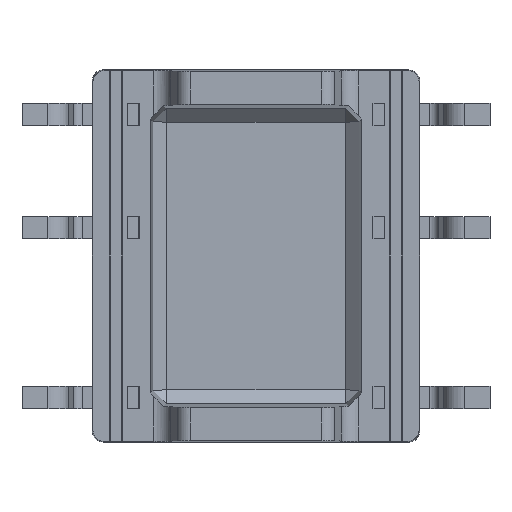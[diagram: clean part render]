
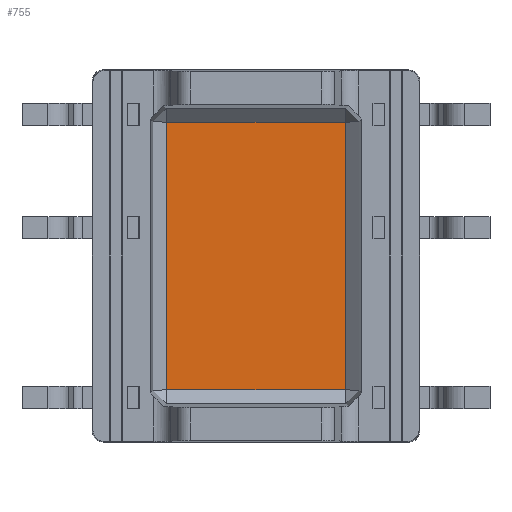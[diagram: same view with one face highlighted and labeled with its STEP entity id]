
A CAD part, front view. The second image highlights one B-rep face of the part: STEP entity #755.
In plain terms, the highlighted planar face has unit normal (0, -1, 0).
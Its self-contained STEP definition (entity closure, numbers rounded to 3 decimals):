
#10 = VECTOR ( 'NONE', #2647, 1000. ) ;
#134 = ORIENTED_EDGE ( 'NONE', *, *, #849, .T. ) ;
#222 = CARTESIAN_POINT ( 'NONE',  ( -2.001, 1.45, -3.31 ) ) ;
#246 = EDGE_CURVE ( 'NONE', #3808, #3427, #1385, .T. ) ;
#285 = FACE_OUTER_BOUND ( 'NONE', #2666, .T. ) ;
#386 = DIRECTION ( 'NONE',  ( 0., 0., 1. ) ) ;
#563 = EDGE_CURVE ( 'NONE', #1008, #3808, #865, .T. ) ;
#755 = ADVANCED_FACE ( 'NONE', ( #285 ), #2657, .F. ) ;
#849 = EDGE_CURVE ( 'NONE', #4920, #1008, #3938, .T. ) ;
#856 = CARTESIAN_POINT ( 'NONE',  ( 2.001, 1.45, 3.31 ) ) ;
#865 = LINE ( 'NONE', #1271, #1432 ) ;
#1008 = VERTEX_POINT ( 'NONE', #3704 ) ;
#1264 = AXIS2_PLACEMENT_3D ( 'NONE', #2709, #4631, #2175 ) ;
#1271 = CARTESIAN_POINT ( 'NONE',  ( -2.31, 1.45, 3.001 ) ) ;
#1385 = LINE ( 'NONE', #222, #10 ) ;
#1432 = VECTOR ( 'NONE', #4865, 1000. ) ;
#1639 = CARTESIAN_POINT ( 'NONE',  ( -2.001, 1.45, 3.001 ) ) ;
#1830 = EDGE_CURVE ( 'NONE', #3427, #4920, #5015, .T. ) ;
#1902 = DIRECTION ( 'NONE',  ( 1., 0., 0. ) ) ;
#1928 = CARTESIAN_POINT ( 'NONE',  ( 2.31, 1.45, -3.001 ) ) ;
#2175 = DIRECTION ( 'NONE',  ( 0., 0., 1. ) ) ;
#2237 = CARTESIAN_POINT ( 'NONE',  ( 2.001, 1.45, -3.001 ) ) ;
#2468 = CARTESIAN_POINT ( 'NONE',  ( -2.001, 1.45, -3.001 ) ) ;
#2647 = DIRECTION ( 'NONE',  ( 0., 0., -1. ) ) ;
#2657 = PLANE ( 'NONE',  #1264 ) ;
#2666 = EDGE_LOOP ( 'NONE', ( #4551, #4757, #134, #4902 ) ) ;
#2709 = CARTESIAN_POINT ( 'NONE',  ( 0., 1.45, 0. ) ) ;
#3414 = VECTOR ( 'NONE', #386, 1000. ) ;
#3427 = VERTEX_POINT ( 'NONE', #2468 ) ;
#3704 = CARTESIAN_POINT ( 'NONE',  ( 2.001, 1.45, 3.001 ) ) ;
#3808 = VERTEX_POINT ( 'NONE', #1639 ) ;
#3938 = LINE ( 'NONE', #856, #3414 ) ;
#4551 = ORIENTED_EDGE ( 'NONE', *, *, #246, .T. ) ;
#4631 = DIRECTION ( 'NONE',  ( 0., 1., 0. ) ) ;
#4757 = ORIENTED_EDGE ( 'NONE', *, *, #1830, .T. ) ;
#4788 = VECTOR ( 'NONE', #1902, 1000. ) ;
#4865 = DIRECTION ( 'NONE',  ( -1., 0., 0. ) ) ;
#4902 = ORIENTED_EDGE ( 'NONE', *, *, #563, .T. ) ;
#4920 = VERTEX_POINT ( 'NONE', #2237 ) ;
#5015 = LINE ( 'NONE', #1928, #4788 ) ;
